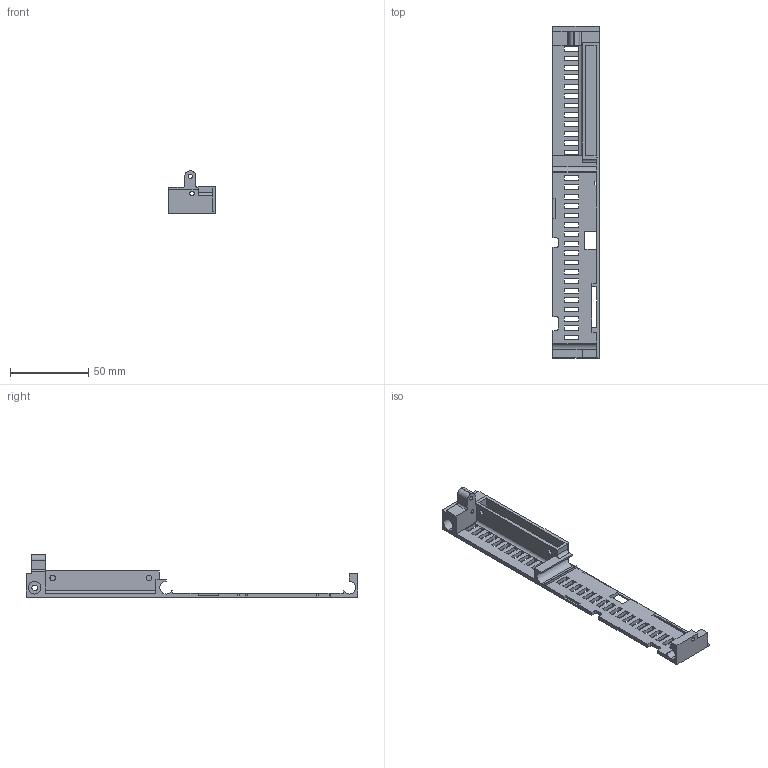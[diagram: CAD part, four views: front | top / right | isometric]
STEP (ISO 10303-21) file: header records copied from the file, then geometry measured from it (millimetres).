
FILE_DESCRIPTION (( 'STEP AP214' ), '1' );
FILE_NAME ('Jetson_node_zero_front.STEP', '2015-03-01T21:25:46', ( '' ), ( '' ), '', '', '' );
FILE_SCHEMA (( '' ));
Length unit declared in the file: millimetre
Products named in the file (1): Jetson_node_zero_front
Bounding box: 29.75 x 212 x 27 mm (x, y, z)
Volume: 22920.5 mm3; surface area: 21788.9 mm2
Topology: 1 solids, 1 shells, 216 faces, 643 edges, 428 vertices
Faces by surface type: plane 188, cylinder 28
Entity records: 7326 total; most frequent: CARTESIAN_POINT 1288, ORIENTED_EDGE 1286, DIRECTION 1133, EDGE_CURVE 643, VECTOR 587, LINE 587, VERTEX_POINT 428, EDGE_LOOP 293
